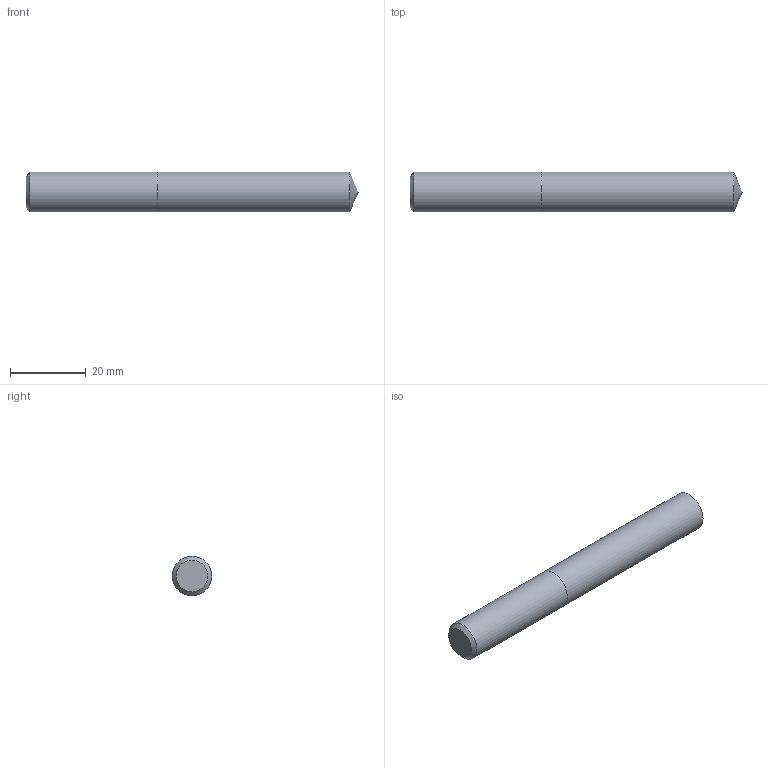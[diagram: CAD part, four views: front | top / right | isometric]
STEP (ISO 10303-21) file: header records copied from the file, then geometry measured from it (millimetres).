
FILE_DESCRIPTION (( 'STEP AP214' ), '1' );
FILE_NAME ('03-2342.STEP', '2022-06-03T06:28:18', ( 'USER' ), ( '' ), 'SwSTEP 2.0', 'SolidWorks 2018', '' );
FILE_SCHEMA (( 'AUTOMOTIVE_DESIGN' ));
Length unit declared in the file: inch
Products named in the file (1): 03-2342
Bounding box: 87.9 x 10.49 x 10.49 mm (x, y, z)
Volume: 7454.8 mm3; surface area: 3156.3 mm2
Topology: 2 solids, 2 shells, 7 faces, 11 edges, 7 vertices
Faces by surface type: plane 3, cylinder 2, cone 2
Full cylindrical faces by diameter (mm): 10.49 x2
Entity records: 214 total; most frequent: DIRECTION 26, CARTESIAN_POINT 18, AXIS2_PLACEMENT_3D 13, ORIENTED_EDGE 10, EDGE_LOOP 10, FACE_OUTER_BOUND 9, DIMENSIONAL_EXPONENTS 7, ADVANCED_FACE 7
